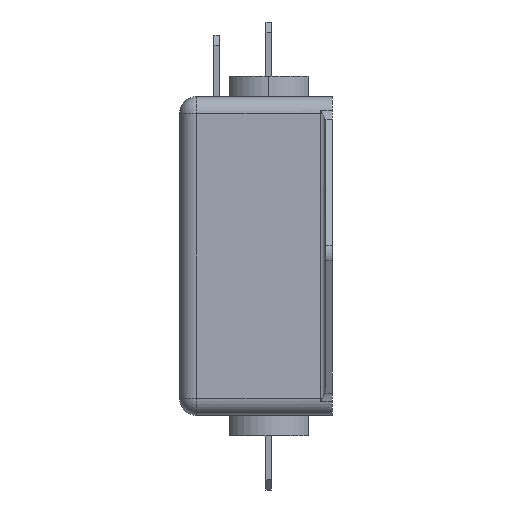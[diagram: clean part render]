
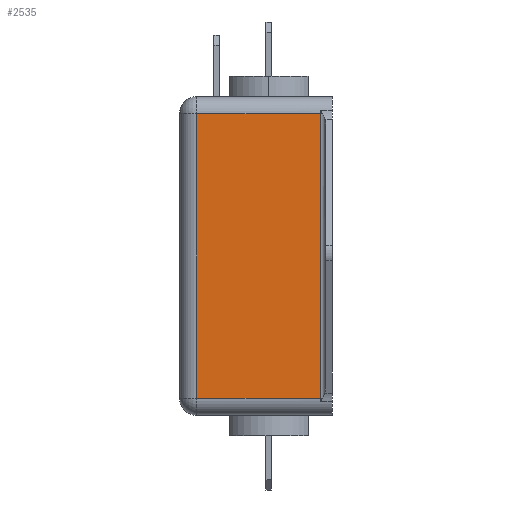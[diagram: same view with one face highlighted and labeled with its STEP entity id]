
A CAD part, left-side view. The second image highlights one B-rep face of the part: STEP entity #2535.
In plain terms, the highlighted planar face has unit normal (-1, 0, 0).
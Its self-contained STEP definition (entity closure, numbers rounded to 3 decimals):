
#251 = VERTEX_POINT ( 'NONE', #3563 ) ;
#369 = VECTOR ( 'NONE', #1267, 1000. ) ;
#456 = VECTOR ( 'NONE', #1869, 1000. ) ;
#460 = FACE_OUTER_BOUND ( 'NONE', #3604, .T. ) ;
#462 = CARTESIAN_POINT ( 'NONE',  ( -25.25, 1.75, -20.75 ) ) ;
#543 = LINE ( 'NONE', #462, #456 ) ;
#684 = DIRECTION ( 'NONE',  ( 0., 0., -1. ) ) ;
#759 = EDGE_CURVE ( 'NONE', #2852, #251, #543, .T. ) ;
#1009 = VECTOR ( 'NONE', #3581, 1000. ) ;
#1035 = LINE ( 'NONE', #3113, #3096 ) ;
#1219 = CARTESIAN_POINT ( 'NONE',  ( -25.25, 19.8, -20.75 ) ) ;
#1267 = DIRECTION ( 'NONE',  ( 0., 1., 0. ) ) ;
#1322 = AXIS2_PLACEMENT_3D ( 'NONE', #4409, #3616, #2251 ) ;
#1431 = LINE ( 'NONE', #1458, #1009 ) ;
#1458 = CARTESIAN_POINT ( 'NONE',  ( -25.25, 19.8, -20.75 ) ) ;
#1560 = PLANE ( 'NONE',  #1322 ) ;
#1605 = VERTEX_POINT ( 'NONE', #4034 ) ;
#1756 = ORIENTED_EDGE ( 'NONE', *, *, #1781, .T. ) ;
#1781 = EDGE_CURVE ( 'NONE', #1605, #3353, #1035, .T. ) ;
#1869 = DIRECTION ( 'NONE',  ( 0., 0., 1. ) ) ;
#2251 = DIRECTION ( 'NONE',  ( 0., 1., 0. ) ) ;
#2488 = CARTESIAN_POINT ( 'NONE',  ( -25.25, 1.75, -20.75 ) ) ;
#2498 = ORIENTED_EDGE ( 'NONE', *, *, #2784, .T. ) ;
#2535 = ADVANCED_FACE ( 'NONE', ( #460 ), #1560, .F. ) ;
#2784 = EDGE_CURVE ( 'NONE', #3353, #2852, #1431, .T. ) ;
#2829 = ORIENTED_EDGE ( 'NONE', *, *, #759, .T. ) ;
#2852 = VERTEX_POINT ( 'NONE', #2488 ) ;
#2895 = ORIENTED_EDGE ( 'NONE', *, *, #3413, .T. ) ;
#3096 = VECTOR ( 'NONE', #684, 1000. ) ;
#3113 = CARTESIAN_POINT ( 'NONE',  ( -25.25, 19.8, -20.75 ) ) ;
#3343 = LINE ( 'NONE', #4416, #369 ) ;
#3353 = VERTEX_POINT ( 'NONE', #1219 ) ;
#3413 = EDGE_CURVE ( 'NONE', #251, #1605, #3343, .T. ) ;
#3563 = CARTESIAN_POINT ( 'NONE',  ( -25.25, 1.75, 20.75 ) ) ;
#3581 = DIRECTION ( 'NONE',  ( 0., -1., 0. ) ) ;
#3604 = EDGE_LOOP ( 'NONE', ( #2498, #2829, #2895, #1756 ) ) ;
#3616 = DIRECTION ( 'NONE',  ( 1., 0., 0. ) ) ;
#4034 = CARTESIAN_POINT ( 'NONE',  ( -25.25, 19.8, 20.75 ) ) ;
#4409 = CARTESIAN_POINT ( 'NONE',  ( -25.25, 22.3, 23.25 ) ) ;
#4416 = CARTESIAN_POINT ( 'NONE',  ( -25.25, 19.8, 20.75 ) ) ;
